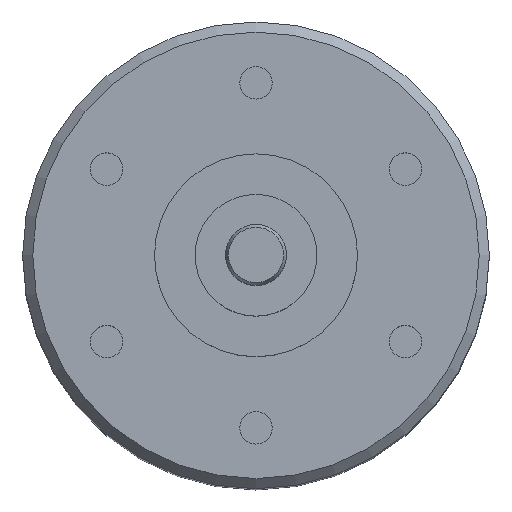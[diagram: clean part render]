
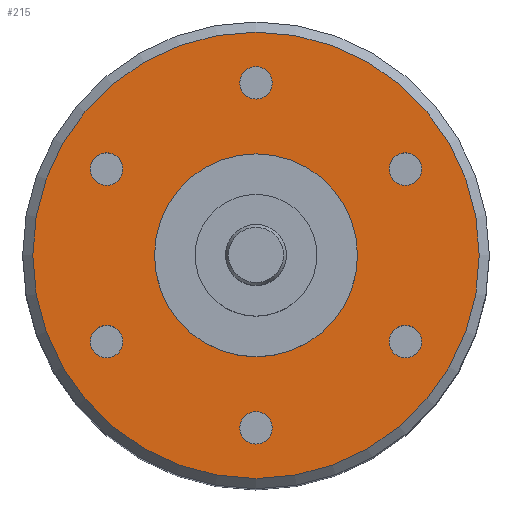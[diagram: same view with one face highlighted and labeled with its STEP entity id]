
A CAD part, top view. The second image highlights one B-rep face of the part: STEP entity #215.
In plain terms, the highlighted planar face has unit normal (0, 0, 1).
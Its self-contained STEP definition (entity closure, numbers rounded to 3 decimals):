
#215=ADVANCED_FACE('',(#612,#613,#614,#615,#616,#617,#618,#619),#325,.T.);
#325=PLANE('',#1956);
#612=FACE_BOUND('',#736,.T.);
#613=FACE_BOUND('',#737,.T.);
#614=FACE_BOUND('',#738,.T.);
#615=FACE_BOUND('',#739,.T.);
#616=FACE_BOUND('',#740,.T.);
#617=FACE_BOUND('',#741,.T.);
#618=FACE_BOUND('',#742,.T.);
#619=FACE_BOUND('',#743,.T.);
#736=EDGE_LOOP('',(#1038));
#737=EDGE_LOOP('',(#1039));
#738=EDGE_LOOP('',(#1040));
#739=EDGE_LOOP('',(#1041));
#740=EDGE_LOOP('',(#1042));
#741=EDGE_LOOP('',(#1043));
#742=EDGE_LOOP('',(#1044));
#743=EDGE_LOOP('',(#1045));
#1038=ORIENTED_EDGE('',*,*,#1666,.T.);
#1039=ORIENTED_EDGE('',*,*,#1667,.T.);
#1040=ORIENTED_EDGE('',*,*,#1668,.T.);
#1041=ORIENTED_EDGE('',*,*,#1669,.T.);
#1042=ORIENTED_EDGE('',*,*,#1670,.T.);
#1043=ORIENTED_EDGE('',*,*,#1671,.T.);
#1044=ORIENTED_EDGE('',*,*,#1672,.T.);
#1045=ORIENTED_EDGE('',*,*,#1673,.F.);
#1467=VERTEX_POINT('',#3010);
#1468=VERTEX_POINT('',#3012);
#1469=VERTEX_POINT('',#3014);
#1470=VERTEX_POINT('',#3016);
#1471=VERTEX_POINT('',#3018);
#1472=VERTEX_POINT('',#3020);
#1473=VERTEX_POINT('',#3022);
#1474=VERTEX_POINT('',#3024);
#1666=EDGE_CURVE('',#1467,#1467,#1818,.T.);
#1667=EDGE_CURVE('',#1468,#1468,#1819,.T.);
#1668=EDGE_CURVE('',#1469,#1469,#1820,.T.);
#1669=EDGE_CURVE('',#1470,#1470,#1821,.T.);
#1670=EDGE_CURVE('',#1471,#1471,#1822,.T.);
#1671=EDGE_CURVE('',#1472,#1472,#1823,.T.);
#1672=EDGE_CURVE('',#1473,#1473,#1824,.T.);
#1673=EDGE_CURVE('',#1474,#1474,#1825,.T.);
#1818=CIRCLE('',#1948,0.8);
#1819=CIRCLE('',#1949,0.8);
#1820=CIRCLE('',#1950,0.8);
#1821=CIRCLE('',#1951,0.8);
#1822=CIRCLE('',#1952,0.8);
#1823=CIRCLE('',#1953,0.8);
#1824=CIRCLE('',#1954,11.);
#1825=CIRCLE('',#1955,5.);
#1948=AXIS2_PLACEMENT_3D('',#3009,#2314,#2315);
#1949=AXIS2_PLACEMENT_3D('',#3011,#2316,#2317);
#1950=AXIS2_PLACEMENT_3D('',#3013,#2318,#2319);
#1951=AXIS2_PLACEMENT_3D('',#3015,#2320,#2321);
#1952=AXIS2_PLACEMENT_3D('',#3017,#2322,#2323);
#1953=AXIS2_PLACEMENT_3D('',#3019,#2324,#2325);
#1954=AXIS2_PLACEMENT_3D('',#3021,#2326,#2327);
#1955=AXIS2_PLACEMENT_3D('',#3023,#2328,#2329);
#1956=AXIS2_PLACEMENT_3D('',#3025,#2330,#2331);
#2314=DIRECTION('',(0.,0.,-1.));
#2315=DIRECTION('',(-0.5,0.866,0.));
#2316=DIRECTION('',(0.,0.,-1.));
#2317=DIRECTION('',(0.5,0.866,0.));
#2318=DIRECTION('',(0.,0.,-1.));
#2319=DIRECTION('',(1.,0.,0.));
#2320=DIRECTION('',(0.,0.,-1.));
#2321=DIRECTION('',(0.5,-0.866,0.));
#2322=DIRECTION('',(0.,0.,-1.));
#2323=DIRECTION('',(-0.5,-0.866,0.));
#2324=DIRECTION('',(0.,0.,-1.));
#2325=DIRECTION('',(-1.,0.,0.));
#2326=DIRECTION('',(0.,0.,1.));
#2327=DIRECTION('',(1.,0.,0.));
#2328=DIRECTION('',(0.,0.,1.));
#2329=DIRECTION('',(1.,0.,0.));
#2330=DIRECTION('',(0.,0.,1.));
#2331=DIRECTION('',(1.,0.,0.));
#3009=CARTESIAN_POINT('',(7.361,4.25,0.));
#3010=CARTESIAN_POINT('',(6.961,4.943,0.));
#3011=CARTESIAN_POINT('',(7.361,-4.25,0.));
#3012=CARTESIAN_POINT('',(7.761,-3.557,0.));
#3013=CARTESIAN_POINT('',(0.,-8.5,0.));
#3014=CARTESIAN_POINT('',(0.8,-8.5,0.));
#3015=CARTESIAN_POINT('',(-7.361,-4.25,0.));
#3016=CARTESIAN_POINT('',(-6.961,-4.943,0.));
#3017=CARTESIAN_POINT('',(-7.361,4.25,0.));
#3018=CARTESIAN_POINT('',(-7.761,3.557,0.));
#3019=CARTESIAN_POINT('',(0.,8.5,0.));
#3020=CARTESIAN_POINT('',(-0.8,8.5,0.));
#3021=CARTESIAN_POINT('',(0.,0.,0.));
#3022=CARTESIAN_POINT('',(11.,0.,0.));
#3023=CARTESIAN_POINT('',(0.,0.,0.));
#3024=CARTESIAN_POINT('',(5.,0.,0.));
#3025=CARTESIAN_POINT('',(0.,0.,0.));
